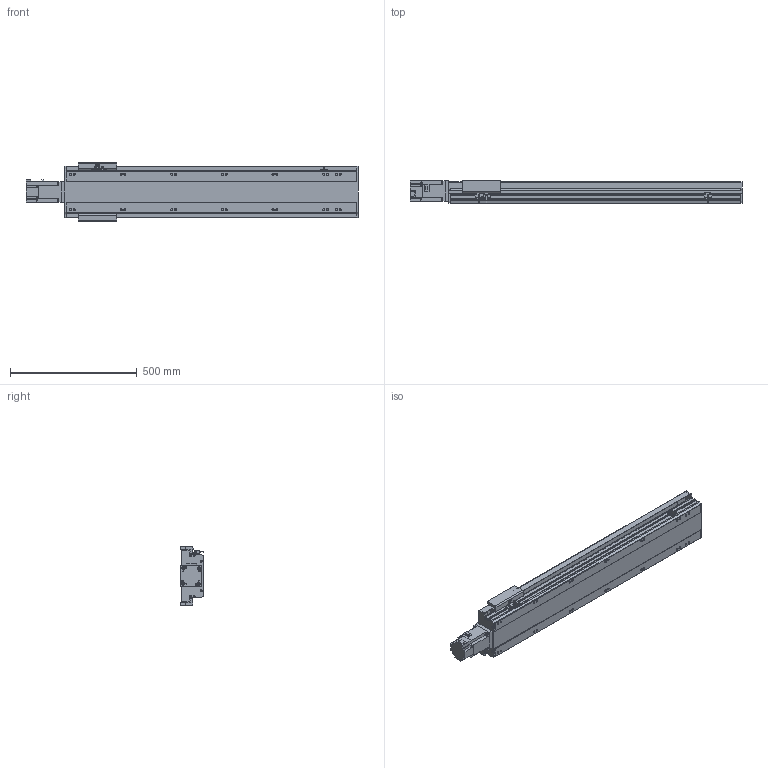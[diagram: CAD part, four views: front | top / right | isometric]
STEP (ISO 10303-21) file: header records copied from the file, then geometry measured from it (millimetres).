
FILE_DESCRIPTION(/* description */ ('STEP AP214'),/* implementation_level */ '2;1');
FILE_NAME(/* name */ 'PSM170-L10-S900-BC-T75-C1-N(0)',/* time_stamp */ '2022-06-29T08:54:21+02:00',/* author */ ('License CC BY-ND 4.0'),/* organization */ ('CADENAS'),/* preprocessor_version */ 'ST-DEVELOPER v18.102',/* originating_system */ 'PARTsolutions',/* authorisation */ ' ');
FILE_SCHEMA (('AUTOMOTIVE_DESIGN {1 0 10303 214 3 1 1}'));
Length unit declared in the file: millimetre
Products named in the file (8): PSM170-L10-S900-BC-T75-C1-N(0); PSM-Sensor; PSM140-S900-1142.5; T75-p1; PSM170_body2; PSM170_body3; PSM170-S900_body1; PSM170-L10-S900-BC-T75-C1-N(0)_dummy
Assembly tree (11 placements, depth 2):
  PSM170-L10-S900-BC-T75-C1-N(0)
    PSM-Sensor  x3
    PSM140-S900-1142.5  x3
    T75-p1
    PSM170_body2
    PSM170_body3
    PSM170-S900_body1
    PSM170-L10-S900-BC-T75-C1-N(0)_dummy
Bounding box: 1311.3 x 92 x 233 mm (x, y, z)
Volume: 7839028.3 mm3; surface area: 1509465.1 mm2
Topology: 10 solids, 10 shells, 1087 faces, 2907 edges, 1892 vertices
Faces by surface type: plane 668, cylinder 337, cone 68, torus 14
Full cylindrical faces by diameter (mm): 2.8 x3, 3.08 x1, 4.134 x4, 4.5 x12, 4.6 x3, 5.7 x2, 6 x9, 6.647 x22, 7 x8, 7.6 x4, 8 x8, 8.5 x14, 10 x4, 14 x14, 45 x1, 70 x1
Entity records: 28740 total; most frequent: CARTESIAN_POINT 5350, DIRECTION 4774, ORIENTED_EDGE 4588, EDGE_CURVE 2294, AXIS2_PLACEMENT_3D 1623, VERTEX_POINT 1610, LINE 1528, VECTOR 1528
